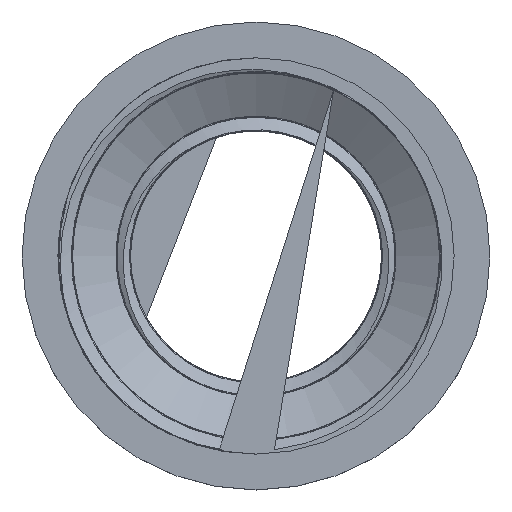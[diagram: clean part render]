
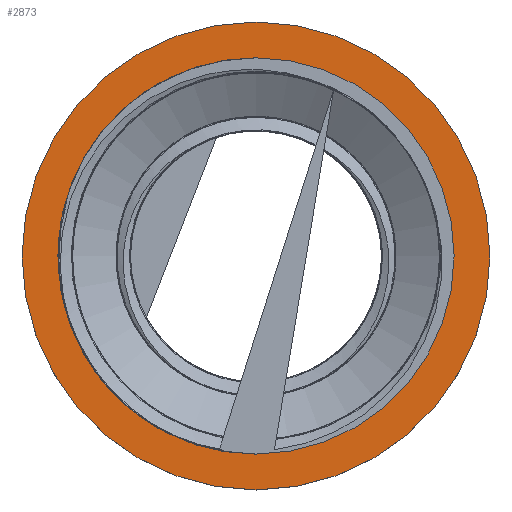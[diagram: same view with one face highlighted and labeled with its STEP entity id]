
A CAD part, top view. The second image highlights one B-rep face of the part: STEP entity #2873.
In plain terms, the highlighted planar face has unit normal (0, 0, 1).
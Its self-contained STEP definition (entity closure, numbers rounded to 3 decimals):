
#34=FACE_BOUND('',#923,.T.);
#624=PLANE('',#3159);
#748=FACE_OUTER_BOUND('',#922,.T.);
#922=EDGE_LOOP('',(#2469,#2470));
#923=EDGE_LOOP('',(#2471,#2472));
#1088=CIRCLE('',#3157,27.75);
#1089=CIRCLE('',#3158,27.75);
#1090=CIRCLE('',#3160,23.5);
#1091=CIRCLE('',#3161,23.5);
#1319=VERTEX_POINT('',#5208);
#1320=VERTEX_POINT('',#5209);
#1321=VERTEX_POINT('',#5214);
#1322=VERTEX_POINT('',#5215);
#1715=EDGE_CURVE('',#1319,#1320,#1088,.T.);
#1716=EDGE_CURVE('',#1320,#1319,#1089,.T.);
#1718=EDGE_CURVE('',#1321,#1322,#1090,.T.);
#1719=EDGE_CURVE('',#1322,#1321,#1091,.T.);
#2469=ORIENTED_EDGE('',*,*,#1715,.T.);
#2470=ORIENTED_EDGE('',*,*,#1716,.T.);
#2471=ORIENTED_EDGE('',*,*,#1718,.F.);
#2472=ORIENTED_EDGE('',*,*,#1719,.F.);
#2873=ADVANCED_FACE('',(#748,#34),#624,.T.);
#3157=AXIS2_PLACEMENT_3D('',#5210,#3802,#3803);
#3158=AXIS2_PLACEMENT_3D('',#5211,#3804,#3805);
#3159=AXIS2_PLACEMENT_3D('',#5213,#3807,#3808);
#3160=AXIS2_PLACEMENT_3D('',#5216,#3809,#3810);
#3161=AXIS2_PLACEMENT_3D('',#5217,#3811,#3812);
#3802=DIRECTION('center_axis',(0.,0.,1.));
#3803=DIRECTION('ref_axis',(1.,0.,0.));
#3804=DIRECTION('center_axis',(0.,0.,1.));
#3805=DIRECTION('ref_axis',(1.,0.,0.));
#3807=DIRECTION('center_axis',(0.,0.,1.));
#3808=DIRECTION('ref_axis',(1.,0.,0.));
#3809=DIRECTION('center_axis',(0.,0.,1.));
#3810=DIRECTION('ref_axis',(1.,0.,0.));
#3811=DIRECTION('center_axis',(0.,0.,1.));
#3812=DIRECTION('ref_axis',(1.,0.,0.));
#5208=CARTESIAN_POINT('',(0.,-27.75,41.317));
#5209=CARTESIAN_POINT('',(0.,27.75,41.317));
#5210=CARTESIAN_POINT('Origin',(0.,0.,41.317));
#5211=CARTESIAN_POINT('Origin',(0.,0.,41.317));
#5213=CARTESIAN_POINT('Origin',(0.,-23.5,41.317));
#5214=CARTESIAN_POINT('',(0.,-23.5,41.317));
#5215=CARTESIAN_POINT('',(0.,23.5,41.317));
#5216=CARTESIAN_POINT('Origin',(0.,0.,41.317));
#5217=CARTESIAN_POINT('Origin',(0.,0.,41.317));
